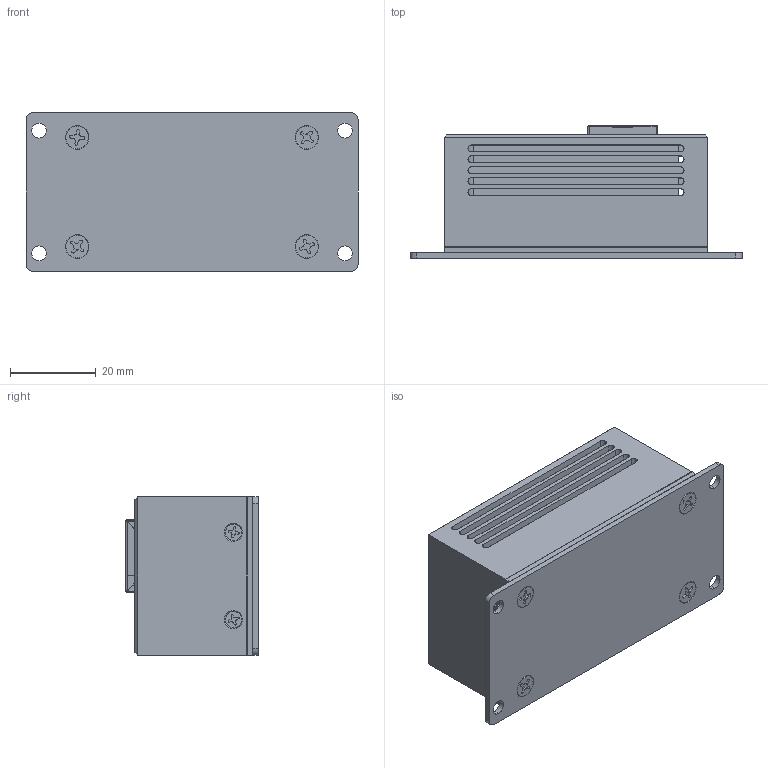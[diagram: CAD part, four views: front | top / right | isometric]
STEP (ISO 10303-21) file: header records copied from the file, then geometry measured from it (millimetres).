
FILE_DESCRIPTION (( 'STEP AP214' ), '1' );
FILE_NAME ('20350.STEP', '2025-04-28T14:57:09', ( '' ), ( '' ), 'SwSTEP 2.0', 'SolidWorks 2024', '' );
FILE_SCHEMA (( 'AUTOMOTIVE_DESIGN' ));
Length unit declared in the file: inch
Products named in the file (1): 20350
Bounding box: 77.22 x 30.82 x 36.83 mm (x, y, z)
Surface area: 26315.2 mm2 (no closed solid volume)
Topology: 0 solids, 80 shells, 1238 faces, 6016 edges, 4776 vertices
Faces by surface type: plane 757, cylinder 395, bspline 62, cone 24
Entity records: 67658 total; most frequent: CARTESIAN_POINT 22094, DIRECTION 8667, ORIENTED_EDGE 8300, EDGE_CURVE 6016, VERTEX_POINT 4776, VECTOR 4051, LINE 4051, AXIS2_PLACEMENT_3D 2308
